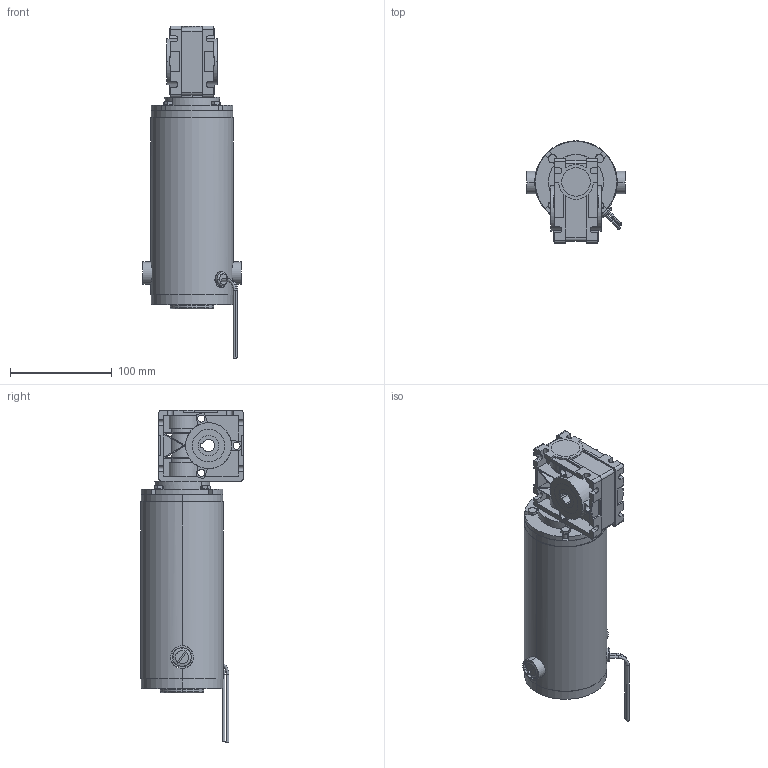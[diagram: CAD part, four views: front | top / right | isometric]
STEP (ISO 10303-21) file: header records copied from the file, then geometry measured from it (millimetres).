
FILE_DESCRIPTION (( 'STEP AP203' ), '1' );
FILE_NAME ('PM8018LV-RA2600T.STEP', '2008-06-30T18:07:30', ( 'eng-rjs' ), ( 'groschopp' ), 'SwSTEP 2.0', 'SolidWorks 2008', '' );
FILE_SCHEMA (( 'CONFIG_CONTROL_DESIGN' ));
Length unit declared in the file: inch
Products named in the file (1): PM8018LV-RA2600T
Bounding box: 96.27 x 100.51 x 325.74 mm (x, y, z)
Surface area: 125842.1 mm2 (no closed solid volume)
Topology: 0 solids, 24 shells, 480 faces, 1335 edges, 881 vertices
Faces by surface type: plane 250, cylinder 164, cone 46, torus 20
Entity records: 15970 total; most frequent: CARTESIAN_POINT 3451, DIRECTION 2666, ORIENTED_EDGE 2466, EDGE_CURVE 1335, AXIS2_PLACEMENT_3D 942, VERTEX_POINT 881, VECTOR 782, LINE 782
